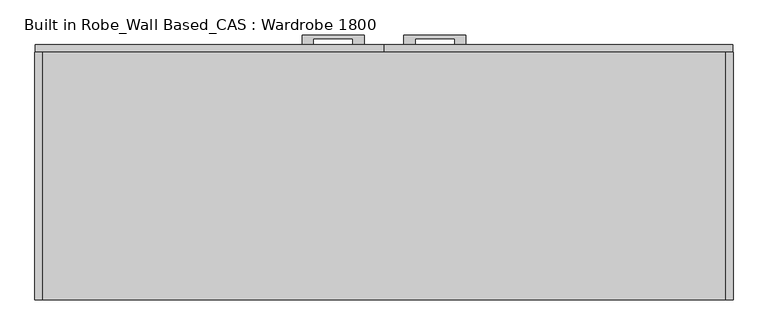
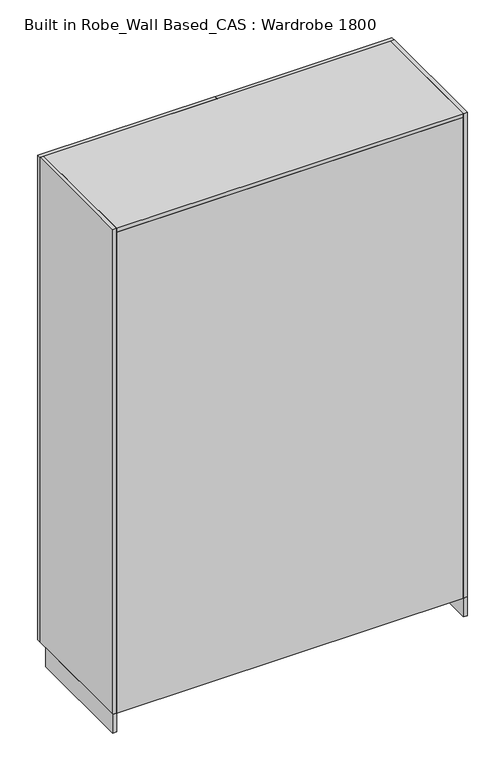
"""IFC4 building model written with IfcOpenShell, lengths in millimetres: furniture geometry, Built in Robe_Wall Based_CAS : Wardrobe 1800."""

from ifc_helpers import new_model, si_unit, point, frame, frame_2d, origin, origin_with_axes, place, context, project, spatial, polyline, circle_curve, trimmed, segment, composite_curve, outline, extrude, source, transform, mapped, element, save


def built_in_robe_wall_based_cas_wardrobe_1800_f7c2170a(model_context):
    return source(origin(), model_context, "Body", "SweptSolid", [
        extrude(outline(polyline([(1025.0, -11.0), (1025.0, -600.0), (1005.0, -600.0), (1005.0, -31.0), (-755.0, -31.0), (-755.0, -600.0), (-775.0, -600.0), (-775.0, -11.0), (1025.0, -11.0)])), origin_with_axes(), (0.0, 0.0, 1.0), 100.0),
        extrude(outline(polyline([(176.0, 84.0), (336.0, 84.0), (336.0, 59.0), (307.0, 59.0), (307.0, 74.0), (205.0, 74.0), (205.0, 59.0), (176.0, 59.0), (176.0, 84.0)])), frame((0.0, 0.0, 792.5), z_axis=(0.0, 0.0, 1.0), x_axis=(1.0, 0.0, 0.0)), (0.0, 0.0, 1.0), 15.0),
        extrude(outline(polyline([(1024.0, 59.0), (1024.0, 39.0), (126.0, 39.0), (126.0, 59.0), (1024.0, 59.0)])), frame((0.0, 0.0, 100.0), z_axis=(0.0, 0.0, 1.0), x_axis=(1.0, 0.0, 0.0)), (0.0, 0.0, 1.0), 2599.0),
        extrude(outline(polyline([(74.0, 84.0), (74.0, 59.0), (45.0, 59.0), (45.0, 74.0), (-57.0, 74.0), (-57.0, 59.0), (-86.0, 59.0), (-86.0, 84.0), (74.0, 84.0)])), frame((0.0, 0.0, 792.5), z_axis=(0.0, 0.0, 1.0), x_axis=(1.0, 0.0, 0.0)), (0.0, 0.0, 1.0), 15.0),
        extrude(outline(polyline([(-774.0, 59.0), (124.0, 59.0), (124.0, 39.0), (-774.0, 39.0), (-774.0, 59.0)])), frame((0.0, 0.0, 100.0), z_axis=(0.0, 0.0, 1.0), x_axis=(1.0, 0.0, 0.0)), (0.0, 0.0, 1.0), 2599.0),
        extrude(outline(composite_curve([segment(trimmed(circle_curve(frame_2d((-260.5, 2060.0)), 37.5), [point((-223.0, 2060.0))], [point((-298.0, 2060.0))], False, "CARTESIAN"), True, "CONTINUOUS"), segment(trimmed(circle_curve(frame_2d((-260.5, 2060.0)), 37.5), [point((-298.0, 2060.0))], [point((-223.0, 2060.0))], False, "CARTESIAN"), True, "CONTINUOUS")], self_intersect=False)), frame((-755.0, 0.0, 0.0), z_axis=(1.0, 0.0, 0.0), x_axis=(0.0, 1.0, 0.0)), (0.0, 0.0, 1.0), 10.0),
        extrude(outline(composite_curve([segment(trimmed(circle_curve(frame_2d((-260.5, 2060.0)), 10.0), [point((-270.5, 2060.0))], [point((-250.5, 2060.0))], False, "CARTESIAN"), True, "CONTINUOUS"), segment(trimmed(circle_curve(frame_2d((-260.5, 2060.0)), 10.0), [point((-250.5, 2060.0))], [point((-270.5, 2060.0))], False, "CARTESIAN"), True, "CONTINUOUS")], self_intersect=False)), frame((-745.0, 0.0, 0.0), z_axis=(1.0, 0.0, 0.0), x_axis=(0.0, 1.0, 0.0)), (0.0, 0.0, 1.0), 1740.0),
        extrude(outline(composite_curve([segment(trimmed(circle_curve(frame_2d((-260.5, 2060.0)), 37.5), [point((-223.0, 2060.0))], [point((-298.0, 2060.0))], False, "CARTESIAN"), True, "CONTINUOUS"), segment(trimmed(circle_curve(frame_2d((-260.5, 2060.0)), 37.5), [point((-298.0, 2060.0))], [point((-223.0, 2060.0))], False, "CARTESIAN"), True, "CONTINUOUS")], self_intersect=False)), frame((995.0, 0.0, 0.0), z_axis=(1.0, 0.0, 0.0), x_axis=(0.0, 1.0, 0.0)), (0.0, 0.0, 1.0), 10.0),
        extrude(outline(composite_curve([segment(trimmed(circle_curve(frame_2d((-260.5, 1100.0)), 37.5), [point((-223.0, 1100.0))], [point((-298.0, 1100.0))], False, "CARTESIAN"), True, "CONTINUOUS"), segment(trimmed(circle_curve(frame_2d((-260.5, 1100.0)), 37.5), [point((-298.0, 1100.0))], [point((-223.0, 1100.0))], False, "CARTESIAN"), True, "CONTINUOUS")], self_intersect=False)), frame((-755.0, 0.0, 0.0), z_axis=(1.0, 0.0, 0.0), x_axis=(0.0, 1.0, 0.0)), (0.0, 0.0, 1.0), 10.0),
        extrude(outline(composite_curve([segment(trimmed(circle_curve(frame_2d((-260.5, 1100.0)), 10.0), [point((-270.5, 1100.0))], [point((-250.5, 1100.0))], False, "CARTESIAN"), True, "CONTINUOUS"), segment(trimmed(circle_curve(frame_2d((-260.5, 1100.0)), 10.0), [point((-250.5, 1100.0))], [point((-270.5, 1100.0))], False, "CARTESIAN"), True, "CONTINUOUS")], self_intersect=False)), frame((-745.0, 0.0, 0.0), z_axis=(1.0, 0.0, 0.0), x_axis=(0.0, 1.0, 0.0)), (0.0, 0.0, 1.0), 1740.0),
        extrude(outline(composite_curve([segment(trimmed(circle_curve(frame_2d((-260.5, 1100.0)), 37.5), [point((-223.0, 1100.0))], [point((-298.0, 1100.0))], False, "CARTESIAN"), True, "CONTINUOUS"), segment(trimmed(circle_curve(frame_2d((-260.5, 1100.0)), 37.5), [point((-298.0, 1100.0))], [point((-223.0, 1100.0))], False, "CARTESIAN"), True, "CONTINUOUS")], self_intersect=False)), frame((995.0, 0.0, 0.0), z_axis=(1.0, 0.0, 0.0), x_axis=(0.0, 1.0, 0.0)), (0.0, 0.0, 1.0), 10.0),
        extrude(outline(polyline([(-755.0, -580.0), (-755.0, 39.0), (1005.0, 39.0), (1005.0, -580.0), (-755.0, -580.0)])), frame((0.0, 0.0, 100.0), z_axis=(0.0, 0.0, 1.0), x_axis=(1.0, 0.0, 0.0)), (0.0, 0.0, 1.0), 20.0),
        extrude(outline(polyline([(-755.0, -600.0), (-755.0, 39.0), (1005.0, 39.0), (1005.0, -600.0), (-755.0, -600.0)])), frame((0.0, 0.0, 2680.0), z_axis=(0.0, 0.0, 1.0), x_axis=(1.0, 0.0, 0.0)), (0.0, 0.0, 1.0), 20.0),
        extrude(outline(polyline([(-755.0, -600.0), (-775.0, -600.0), (-775.0, 39.0), (-755.0, 39.0), (-755.0, -600.0)])), frame((0.0, 0.0, 100.0), z_axis=(0.0, 0.0, 1.0), x_axis=(1.0, 0.0, 0.0)), (0.0, 0.0, 1.0), 2600.0),
        extrude(outline(polyline([(1025.0, -600.0), (1005.0, -600.0), (1005.0, 39.0), (1025.0, 39.0), (1025.0, -600.0)])), frame((0.0, 0.0, 100.0), z_axis=(0.0, 0.0, 1.0), x_axis=(1.0, 0.0, 0.0)), (0.0, 0.0, 1.0), 2600.0),
        extrude(outline(polyline([(-755.0, -580.0), (1005.0, -580.0), (1005.0, -600.0), (-755.0, -600.0), (-755.0, -580.0)])), frame((0.0, 0.0, 100.0), z_axis=(0.0, 0.0, 1.0), x_axis=(1.0, 0.0, 0.0)), (0.0, 0.0, 1.0), 2580.0),
    ])


if __name__ == "__main__":
    model = new_model("IFC4")
    model_context = context("Model", 3, world=origin())
    ifc_project = project(units=[si_unit("LENGTHUNIT", "METRE", prefix="MILLI")], contexts=[model_context])
    site = spatial("IfcSite", under=ifc_project)
    building = spatial("IfcBuilding", under=site)
    placement = place(None, origin())
    built_in_robe_wall_based_cas_wardrobe_1800_shape = built_in_robe_wall_based_cas_wardrobe_1800_f7c2170a(model_context)
    element("IfcFurniture", 1, ObjectType="Built in Robe_Wall Based_CAS : Wardrobe 1800", at=placement, inside=building, context=model_context, shape_type="MappedRepresentation", body=[
        mapped(built_in_robe_wall_based_cas_wardrobe_1800_shape, transform((0.0, 0.0, 0.0), x_axis=(1.0, 0.0, 0.0), y_axis=(0.0, 1.0, 0.0), z_axis=(0.0, 0.0, 1.0))),
    ])
    save(model, "model.ifc")
